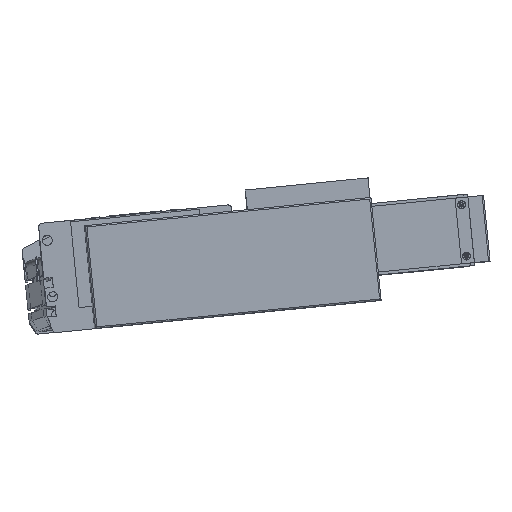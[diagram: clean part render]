
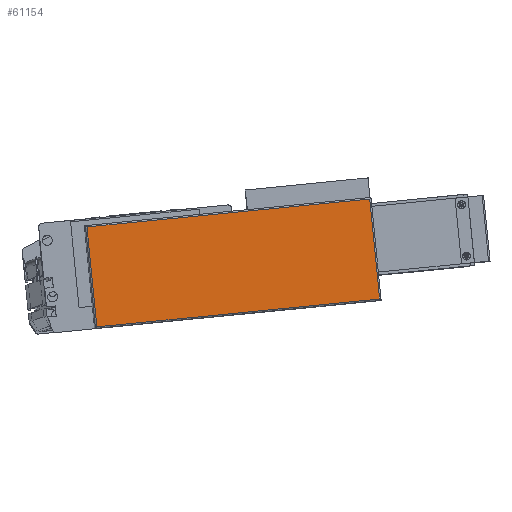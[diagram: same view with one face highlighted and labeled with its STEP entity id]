
A CAD part, top view. The second image highlights one B-rep face of the part: STEP entity #61154.
In plain terms, the highlighted planar face has unit normal (0.017, 0.003, 1) as drawn and (0, 0, 1) by its records, which use the part's own axes.
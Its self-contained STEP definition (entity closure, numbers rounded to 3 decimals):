
#42489 = DIRECTION ( 'NONE',  ( 0., 0., 1. ) ) ;
#42604 = AXIS2_PLACEMENT_3D ( 'NONE', #42626, #42489, #42630 ) ;
#42605 = LINE ( 'NONE', #42667, #42666 ) ;
#42606 = CARTESIAN_POINT ( 'NONE',  ( 163.25, 1., 44. ) ) ;
#42621 = FACE_OUTER_BOUND ( 'NONE', #61148, .T. ) ;
#42626 = CARTESIAN_POINT ( 'NONE',  ( -35.75, 0., 44. ) ) ;
#42628 = PLANE ( 'NONE',  #42604 ) ;
#42630 = DIRECTION ( 'NONE',  ( 1., 0., 0. ) ) ;
#42632 = DIRECTION ( 'NONE',  ( 1., 0., 0. ) ) ;
#42634 = VECTOR ( 'NONE', #42632, 1000. ) ;
#42636 = CARTESIAN_POINT ( 'NONE',  ( 164.25, 1., 44. ) ) ;
#42650 = LINE ( 'NONE', #42636, #42634 ) ;
#42664 = DIRECTION ( 'NONE',  ( -1., 0., 0. ) ) ;
#42666 = VECTOR ( 'NONE', #42664, 1000. ) ;
#42667 = CARTESIAN_POINT ( 'NONE',  ( -35.75, 71., 44. ) ) ;
#42696 = DIRECTION ( 'NONE',  ( 0., 1., 0. ) ) ;
#42697 = VECTOR ( 'NONE', #42696, 1000. ) ;
#42698 = CARTESIAN_POINT ( 'NONE',  ( -34.75, 71., 44. ) ) ;
#42699 = CARTESIAN_POINT ( 'NONE',  ( 163.25, 72., 44. ) ) ;
#42700 = LINE ( 'NONE', #42699, #42697 ) ;
#42705 = CARTESIAN_POINT ( 'NONE',  ( -34.75, 1., 44. ) ) ;
#42881 = CARTESIAN_POINT ( 'NONE',  ( 163.25, 71., 44. ) ) ;
#42930 = VECTOR ( 'NONE', #42955, 1000. ) ;
#42955 = DIRECTION ( 'NONE',  ( 0., -1., 0. ) ) ;
#42979 = CARTESIAN_POINT ( 'NONE',  ( -34.75, 0., 44. ) ) ;
#42981 = LINE ( 'NONE', #42979, #42930 ) ;
#61148 = EDGE_LOOP ( 'NONE', ( #61173, #61156, #61211, #61165 ) ) ;
#61149 = EDGE_CURVE ( 'NONE', #61166, #61155, #42650, .T. ) ;
#61154 = ADVANCED_FACE ( 'NONE', ( #42621 ), #42628, .T. ) ;
#61155 = VERTEX_POINT ( 'NONE', #42606 ) ;
#61156 = ORIENTED_EDGE ( 'NONE', *, *, #61158, .T. ) ;
#61158 = EDGE_CURVE ( 'NONE', #61155, #61186, #42700, .T. ) ;
#61161 = EDGE_CURVE ( 'NONE', #61186, #61163, #42605, .T. ) ;
#61163 = VERTEX_POINT ( 'NONE', #42698 ) ;
#61165 = ORIENTED_EDGE ( 'NONE', *, *, #61213, .T. ) ;
#61166 = VERTEX_POINT ( 'NONE', #42705 ) ;
#61173 = ORIENTED_EDGE ( 'NONE', *, *, #61149, .T. ) ;
#61186 = VERTEX_POINT ( 'NONE', #42881 ) ;
#61211 = ORIENTED_EDGE ( 'NONE', *, *, #61161, .T. ) ;
#61213 = EDGE_CURVE ( 'NONE', #61163, #61166, #42981, .T. ) ;
